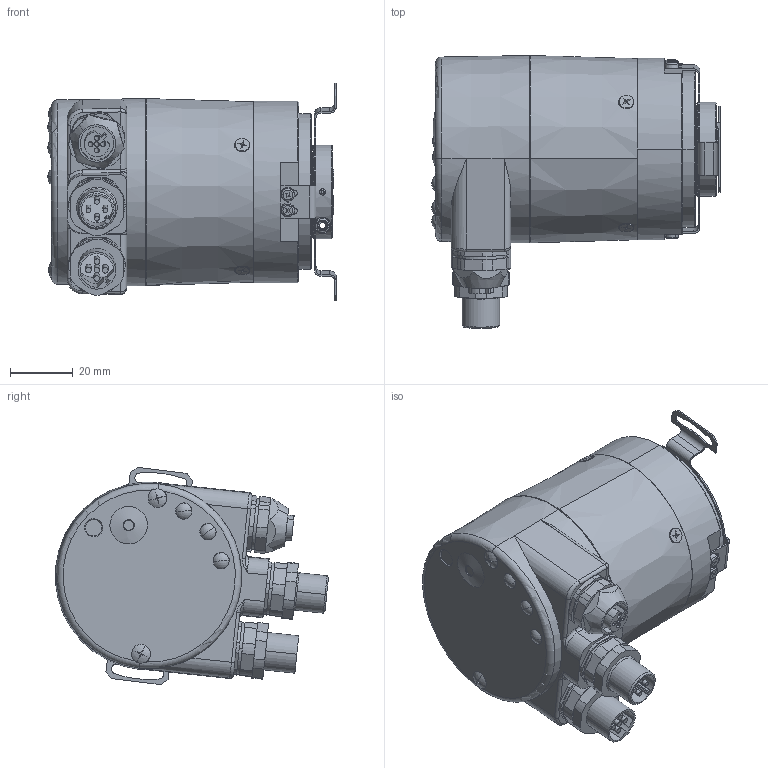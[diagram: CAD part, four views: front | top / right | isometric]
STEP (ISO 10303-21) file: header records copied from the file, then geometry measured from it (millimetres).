
FILE_DESCRIPTION (( 'STEP AP214' ), '1' );
FILE_NAME ('5888.5432.XXXX.STEP', '2008-06-18T06:38:09', ( 'admin' ), ( 'Fritz Kübler GmbH' ), 'SwSTEP 2.0', 'SolidWorks 2007', '' );
FILE_SCHEMA (( 'AUTOMOTIVE_DESIGN' ));
Length unit declared in the file: millimetre
Products named in the file (1): 5888.5432.XXXX
Bounding box: 92.17 x 87.19 x 69.44 mm (x, y, z)
Surface area: 36490.7 mm2 (no closed solid volume)
Topology: 0 solids, 36 shells, 655 faces, 1796 edges, 1162 vertices
Faces by surface type: plane 310, cylinder 242, cone 60, torus 24, sphere 11, bspline 8
Entity records: 28853 total; most frequent: CARTESIAN_POINT 4875, DIRECTION 3670, ORIENTED_EDGE 3216, EDGE_CURVE 1791, AXIS2_PLACEMENT_3D 1329, VERTEX_POINT 1162, VECTOR 1012, LINE 1012
